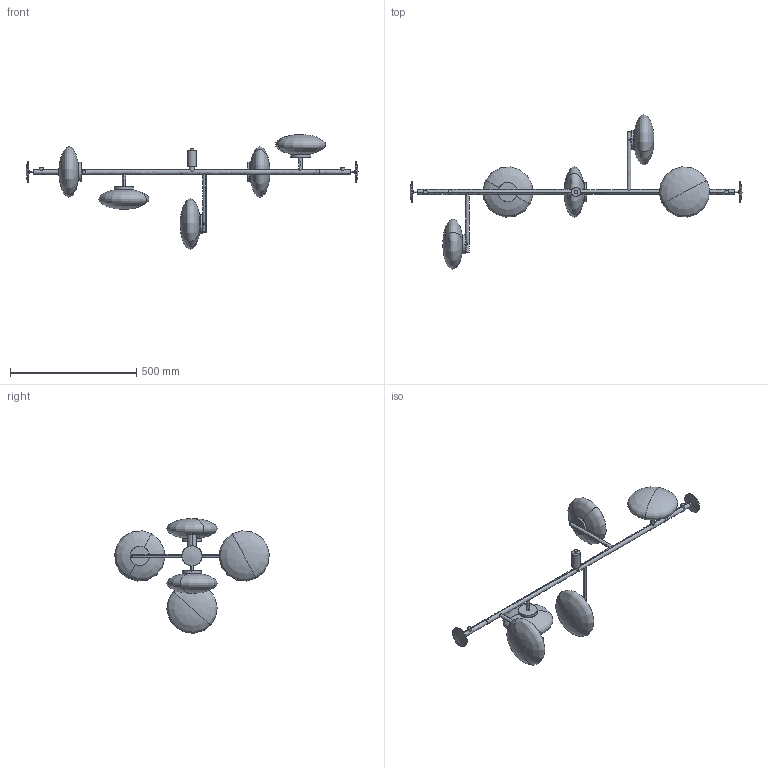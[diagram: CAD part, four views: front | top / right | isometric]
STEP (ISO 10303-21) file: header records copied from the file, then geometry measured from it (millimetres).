
FILE_DESCRIPTION(/* description */ (''),/* implementation_level */ '2;1');
FILE_NAME(/* name */ 'SEC5A9~1',/* time_stamp */ '2020-10-20T14:39:56+02:00',/* author */ (''),/* organization */ (''),/* preprocessor_version */ 'ST-DEVELOPER v16.5',/* originating_system */ '',/* authorisation */ '');
FILE_SCHEMA (('AUTOMOTIVE_DESIGN'));
Length unit declared in the file: millimetre
Products named in the file (1): Document
Bounding box: 1316 x 612.82 x 454.89 mm (x, y, z)
Volume: 631719.8 mm3; surface area: 678089.5 mm2
Topology: 11 solids, 17 shells, 213 faces, 545 edges, 355 vertices
Faces by surface type: bspline 152, plane 61
Entity records: 9679 total; most frequent: CARTESIAN_POINT 6333, ORIENTED_EDGE 1046, EDGE_CURVE 529, VERTEX_POINT 355, B_SPLINE_CURVE_WITH_KNOTS 309, EDGE_LOOP 238, ADVANCED_FACE 213, FACE_OUTER_BOUND 213
